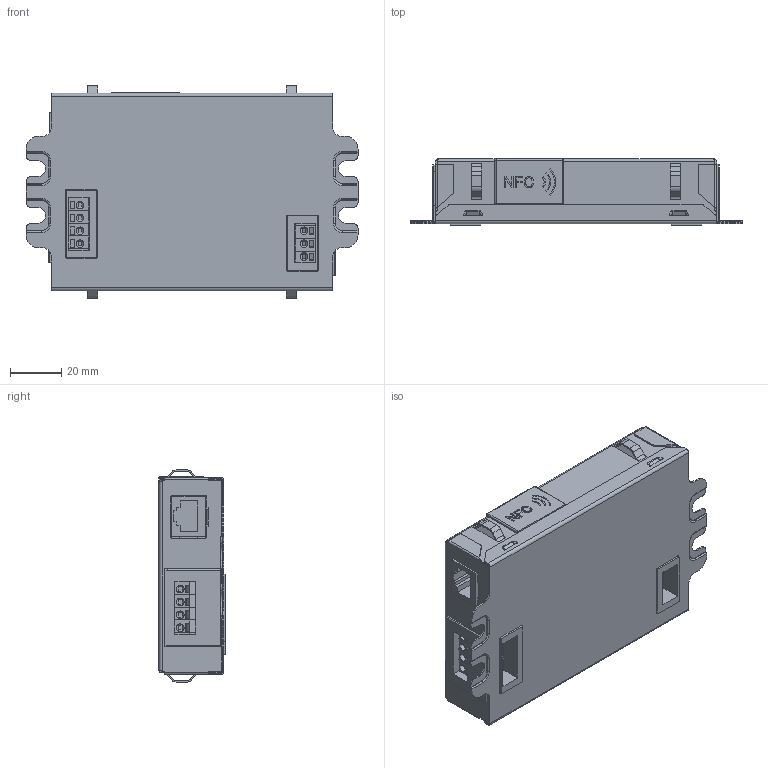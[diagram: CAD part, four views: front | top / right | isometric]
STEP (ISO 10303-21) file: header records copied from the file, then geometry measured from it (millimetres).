
FILE_DESCRIPTION (( 'STEP AP214' ), '1' );
FILE_NAME ('Vesta Flex Driver_Brick (No Stud).STEP', '2020-09-23T01:09:34', ( '' ), ( '' ), 'SwSTEP 2.0', 'SolidWorks 2020', '' );
FILE_SCHEMA (( 'AUTOMOTIVE_DESIGN' ));
Length unit declared in the file: millimetre
Products named in the file (1): Vesta Flex Driver_Brick (No Stud)
Bounding box: 129 x 25.7 x 82.4 mm (x, y, z)
Volume: 26509.3 mm3; surface area: 69459.6 mm2
Topology: 16 solids, 16 shells, 2066 faces, 5201 edges, 3235 vertices
Faces by surface type: plane 1313, cylinder 550, cone 84, bspline 81, torus 32, sphere 6
Full cylindrical faces by diameter (mm): 0.349 x1
Entity records: 92471 total; most frequent: CARTESIAN_POINT 20004, ORIENTED_EDGE 10388, DIRECTION 10014, EDGE_CURVE 5194, VECTOR 3790, LINE 3790, VERTEX_POINT 3234, AXIS2_PLACEMENT_3D 3112
